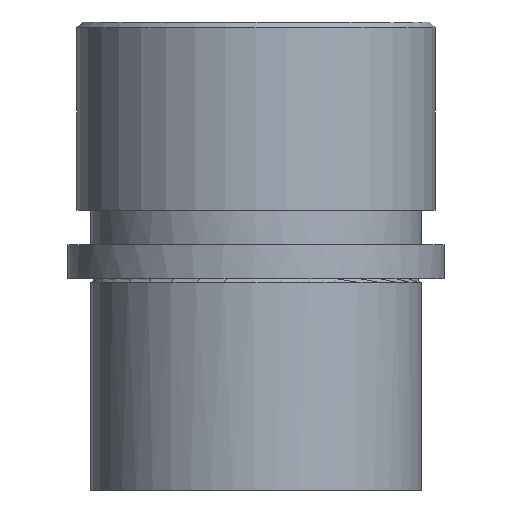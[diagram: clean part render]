
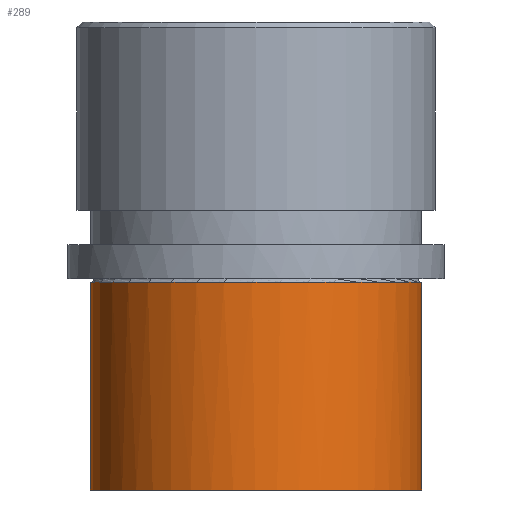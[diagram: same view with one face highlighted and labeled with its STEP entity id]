
A CAD part, front view. The second image highlights one B-rep face of the part: STEP entity #289.
In plain terms, the highlighted cylindrical face has radius 29 mm (diameter 58 mm), a partial arc.
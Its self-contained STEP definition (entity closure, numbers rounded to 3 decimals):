
#109=CARTESIAN_POINT('Control Point',(-29.,0.,-37.)) ;
#110=CARTESIAN_POINT('Control Point',(-29.,-2.638,-37.)) ;
#111=CARTESIAN_POINT('Control Point',(-28.7,-5.276,-37.)) ;
#112=CARTESIAN_POINT('Control Point',(-28.1,-7.869,-37.)) ;
#113=CARTESIAN_POINT('Control Point',(-26.321,-12.873,-37.)) ;
#114=CARTESIAN_POINT('Control Point',(-23.464,-17.349,-37.)) ;
#115=CARTESIAN_POINT('Control Point',(-21.786,-19.414,-37.)) ;
#116=CARTESIAN_POINT('Control Point',(-17.989,-23.127,-37.)) ;
#117=CARTESIAN_POINT('Control Point',(-13.456,-25.893,-37.)) ;
#118=CARTESIAN_POINT('Control Point',(-11.041,-27.012,-37.)) ;
#119=CARTESIAN_POINT('Control Point',(-6.,-28.679,-37.)) ;
#120=CARTESIAN_POINT('Control Point',(-0.712,-29.172,-37.)) ;
#121=CARTESIAN_POINT('Control Point',(1.949,-29.116,-37.)) ;
#122=CARTESIAN_POINT('Control Point',(7.21,-28.399,-37.)) ;
#123=CARTESIAN_POINT('Control Point',(12.177,-26.519,-37.)) ;
#124=CARTESIAN_POINT('Control Point',(14.542,-25.299,-37.)) ;
#125=CARTESIAN_POINT('Control Point',(18.954,-22.344,-37.)) ;
#126=CARTESIAN_POINT('Control Point',(22.589,-18.473,-37.)) ;
#127=CARTESIAN_POINT('Control Point',(24.178,-16.338,-37.)) ;
#128=CARTESIAN_POINT('Control Point',(26.719,-11.959,-37.)) ;
#129=CARTESIAN_POINT('Control Point',(28.26,-7.143,-37.)) ;
#130=CARTESIAN_POINT('Control Point',(28.753,-4.784,-37.)) ;
#131=CARTESIAN_POINT('Control Point',(29.,-2.392,-37.)) ;
#132=CARTESIAN_POINT('Control Point',(29.,0.,-37.)) ;
#133=CARTESIAN_POINT('Vertex',(-29.,0.,-37.)) ;
#135=CARTESIAN_POINT('Vertex',(29.,0.,-37.)) ;
#247=CARTESIAN_POINT('Axis2P3D Location',(0.,0.,45.)) ;
#252=CARTESIAN_POINT('Line Origine',(29.,0.,45.)) ;
#256=CARTESIAN_POINT('Vertex',(29.,0.,-0.6)) ;
#260=CARTESIAN_POINT('Control Point',(-29.,0.,-0.6)) ;
#261=CARTESIAN_POINT('Control Point',(-29.,-4.555,-0.6)) ;
#262=CARTESIAN_POINT('Control Point',(-28.106,-9.111,-0.6)) ;
#263=CARTESIAN_POINT('Control Point',(-26.316,-13.431,-0.6)) ;
#264=CARTESIAN_POINT('Control Point',(-21.139,-21.139,-0.6)) ;
#265=CARTESIAN_POINT('Control Point',(-13.431,-26.316,-0.6)) ;
#266=CARTESIAN_POINT('Control Point',(-9.111,-28.106,-0.6)) ;
#267=CARTESIAN_POINT('Control Point',(0.,-29.894,-0.6)) ;
#268=CARTESIAN_POINT('Control Point',(9.111,-28.106,-0.6)) ;
#269=CARTESIAN_POINT('Control Point',(13.431,-26.316,-0.6)) ;
#270=CARTESIAN_POINT('Control Point',(21.139,-21.139,-0.6)) ;
#271=CARTESIAN_POINT('Control Point',(26.316,-13.431,-0.6)) ;
#272=CARTESIAN_POINT('Control Point',(28.106,-9.111,-0.6)) ;
#273=CARTESIAN_POINT('Control Point',(29.,-4.555,-0.6)) ;
#274=CARTESIAN_POINT('Control Point',(29.,0.,-0.6)) ;
#275=CARTESIAN_POINT('Vertex',(-29.,0.,-0.6)) ;
#278=CARTESIAN_POINT('Line Origine',(-29.,0.,45.)) ;
#248=DIRECTION('Axis2P3D Direction',(0.,0.,-1.)) ;
#249=DIRECTION('Axis2P3D XDirection',(1.,0.,0.)) ;
#253=DIRECTION('Vector Direction',(0.,0.,-1.)) ;
#279=DIRECTION('Vector Direction',(0.,0.,-1.)) ;
#250=AXIS2_PLACEMENT_3D('Cylinder Axis2P3D',#247,#248,#249) ;
#284=ORIENTED_EDGE('',*,*,#258,.T.) ;
#285=ORIENTED_EDGE('',*,*,#277,.F.) ;
#286=ORIENTED_EDGE('',*,*,#282,.T.) ;
#287=ORIENTED_EDGE('',*,*,#137,.T.) ;
#254=VECTOR('Line Direction',#253,1.) ;
#280=VECTOR('Line Direction',#279,1.) ;
#289=ADVANCED_FACE('735-38',(#288),#251,.T.) ;
#108=B_SPLINE_CURVE_WITH_KNOTS('',5,(#109,#110,#111,#112,#113,#114,#115,#116,#117,#118,#119,#120,#121,#122,#123,#124,#125,#126,#127,#128,#129,#130,#131,#132),.UNSPECIFIED.,.F.,.U.,(6,3,3,3,3,3,3,6),(0.,18.655,37.309,55.964,74.618,93.273,111.928,128.843),.UNSPECIFIED.) ;
#259=B_SPLINE_CURVE_WITH_KNOTS('',5,(#260,#261,#262,#263,#264,#265,#266,#267,#268,#269,#270,#271,#272,#273,#274),.UNSPECIFIED.,.F.,.U.,(6,3,3,3,6),(-45.553,-22.777,0.,22.777,45.553),.UNSPECIFIED.) ;
#251=CYLINDRICAL_SURFACE('generated cylinder',#250,29.) ;
#137=EDGE_CURVE('',#134,#136,#108,.T.) ;
#258=EDGE_CURVE('',#136,#257,#255,.F.) ;
#277=EDGE_CURVE('',#276,#257,#259,.T.) ;
#282=EDGE_CURVE('',#276,#134,#281,.T.) ;
#283=EDGE_LOOP('',(#284,#285,#286,#287)) ;
#288=FACE_OUTER_BOUND('',#283,.T.) ;
#255=LINE('Line',#252,#254) ;
#281=LINE('Line',#278,#280) ;
#134=VERTEX_POINT('',#133) ;
#136=VERTEX_POINT('',#135) ;
#257=VERTEX_POINT('',#256) ;
#276=VERTEX_POINT('',#275) ;
